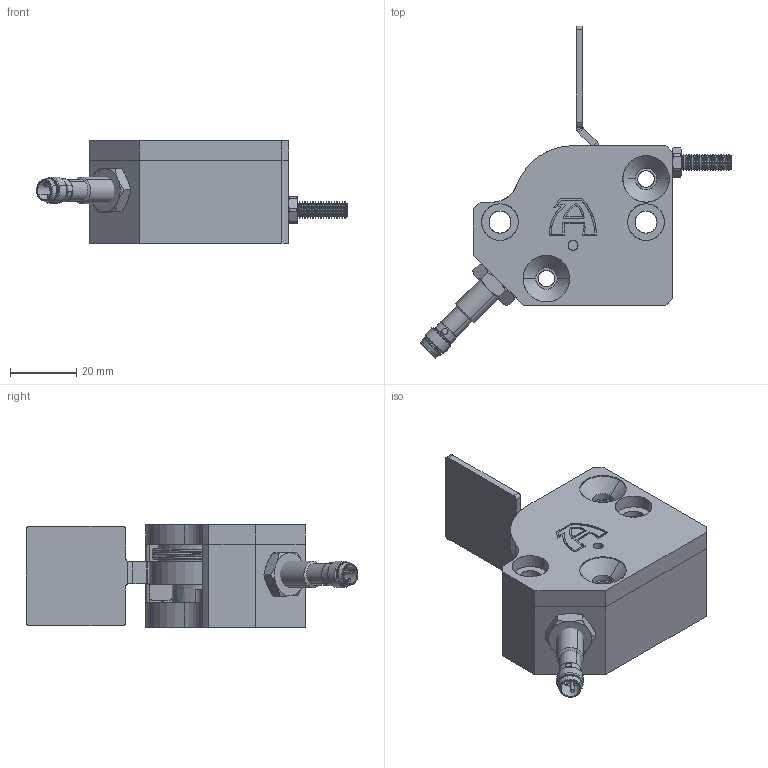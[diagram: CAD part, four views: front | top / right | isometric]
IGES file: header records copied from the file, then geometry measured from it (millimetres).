
Start section: SolidWorks IGES file using analytic representation for surfaces
Global section: file name: V:\webhosting\solidcomponents\www\company\out\15469702\FC-3-A-Tooling\FC-3-A-Tooling.igs; native system: SolidWorks 2010; preprocessor: SolidWorks 2010; author: CShared; date: 220516.090203; units: millimetre
Bounding box: 93.6 x 99.96 x 31 mm (x, y, z)
Surface area: 30435.2 mm2 (no closed solid volume)
Topology: 0 solids, 0 shells, 836 faces, 7583 edges, 7571 vertices
Faces by surface type: revolution 525, bspline 311
